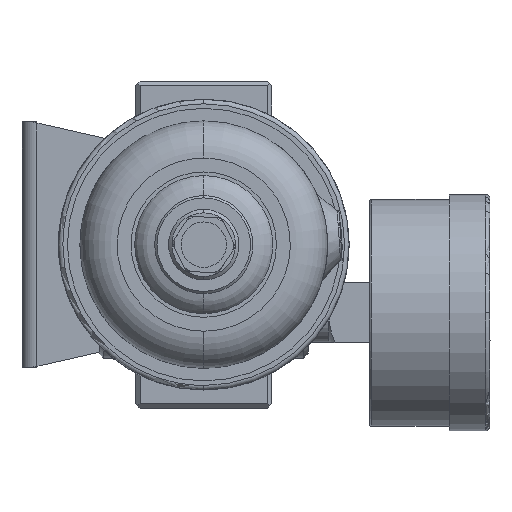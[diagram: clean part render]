
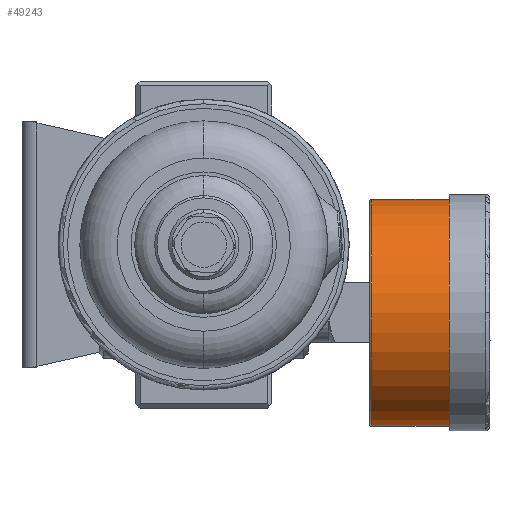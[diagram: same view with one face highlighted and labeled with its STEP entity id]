
A CAD part, front view. The second image highlights one B-rep face of the part: STEP entity #49243.
In plain terms, the highlighted cylindrical face has radius 25 mm (diameter 50 mm), a partial arc.
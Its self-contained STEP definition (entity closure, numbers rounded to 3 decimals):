
#147 = CARTESIAN_POINT ( 'NONE',  ( 37., 0., -40. ) ) ;
#1469 = CARTESIAN_POINT ( 'NONE',  ( 45.5, 0., 10. ) ) ;
#2082 = FACE_OUTER_BOUND ( 'NONE', #5987, .T. ) ;
#5987 = EDGE_LOOP ( 'NONE', ( #20533, #26529, #28177, #13513 ) ) ;
#6436 = VERTEX_POINT ( 'NONE', #20894 ) ;
#7269 = CARTESIAN_POINT ( 'NONE',  ( 37., 0., 10. ) ) ;
#10158 = EDGE_CURVE ( 'NONE', #6436, #11655, #12078, .T. ) ;
#10479 = CARTESIAN_POINT ( 'NONE',  ( 54., 0., -15. ) ) ;
#11655 = VERTEX_POINT ( 'NONE', #47907 ) ;
#12078 = CIRCLE ( 'NONE', #39849, 25. ) ;
#13479 = DIRECTION ( 'NONE',  ( 0., -1., 0. ) ) ;
#13513 = ORIENTED_EDGE ( 'NONE', *, *, #10158, .T. ) ;
#16567 = VERTEX_POINT ( 'NONE', #7269 ) ;
#19145 = AXIS2_PLACEMENT_3D ( 'NONE', #29204, #40847, #13479 ) ;
#19151 = VECTOR ( 'NONE', #47858, 1000. ) ;
#19566 = CYLINDRICAL_SURFACE ( 'NONE', #34260, 25. ) ;
#20533 = ORIENTED_EDGE ( 'NONE', *, *, #27086, .F. ) ;
#20840 = VERTEX_POINT ( 'NONE', #147 ) ;
#20894 = CARTESIAN_POINT ( 'NONE',  ( 54., 0., -40. ) ) ;
#21262 = DIRECTION ( 'NONE',  ( 1., 0., 0. ) ) ;
#21713 = VECTOR ( 'NONE', #31024, 1000. ) ;
#25986 = DIRECTION ( 'NONE',  ( -1., 0., 0. ) ) ;
#26529 = ORIENTED_EDGE ( 'NONE', *, *, #35461, .F. ) ;
#27086 = EDGE_CURVE ( 'NONE', #16567, #11655, #31864, .T. ) ;
#28177 = ORIENTED_EDGE ( 'NONE', *, *, #43613, .T. ) ;
#29204 = CARTESIAN_POINT ( 'NONE',  ( 37., 0., -15. ) ) ;
#31024 = DIRECTION ( 'NONE',  ( 1., 0., 0. ) ) ;
#31864 = LINE ( 'NONE', #1469, #19151 ) ;
#34260 = AXIS2_PLACEMENT_3D ( 'NONE', #47101, #21262, #36528 ) ;
#35240 = CARTESIAN_POINT ( 'NONE',  ( 45.5, 0., -40. ) ) ;
#35461 = EDGE_CURVE ( 'NONE', #20840, #16567, #38887, .T. ) ;
#36528 = DIRECTION ( 'NONE',  ( 0., 0., -1. ) ) ;
#38887 = CIRCLE ( 'NONE', #19145, 25. ) ;
#39849 = AXIS2_PLACEMENT_3D ( 'NONE', #10479, #25986, #45567 ) ;
#40847 = DIRECTION ( 'NONE',  ( -1., 0., 0. ) ) ;
#41058 = LINE ( 'NONE', #35240, #21713 ) ;
#43613 = EDGE_CURVE ( 'NONE', #20840, #6436, #41058, .T. ) ;
#45567 = DIRECTION ( 'NONE',  ( 0., 0., -1. ) ) ;
#47101 = CARTESIAN_POINT ( 'NONE',  ( 45.5, 0., -15. ) ) ;
#47858 = DIRECTION ( 'NONE',  ( 1., 0., 0. ) ) ;
#47907 = CARTESIAN_POINT ( 'NONE',  ( 54., 0., 10. ) ) ;
#49243 = ADVANCED_FACE ( 'NONE', ( #2082 ), #19566, .T. ) ;
